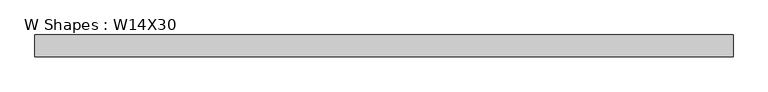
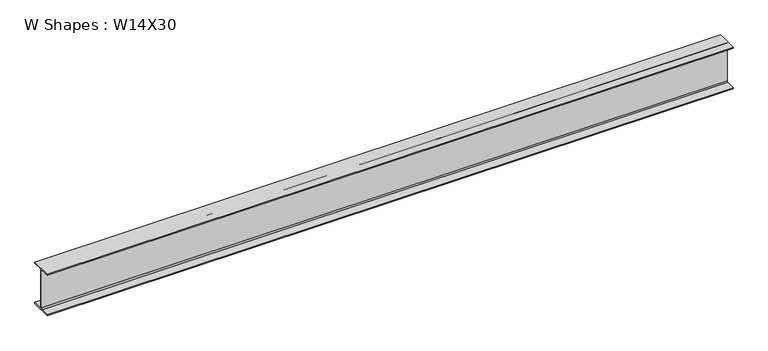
"""IFC4 building model written with IfcOpenShell, lengths in millimetres: beam geometry, W Shapes : W14X30."""

import ifcopenshell
import ifcopenshell.guid

model = None  # the IFC model being written
_history = None  # IfcOwnerHistory: only IFC2X3 demands one
_inside = {}  # id of a spatial element -> (the spatial element, [elements in it])
_under = {}  # id of a project, library or spatial element -> (it, [spatial elements below it])
_declared = {}  # id of a project -> (the project, [libraries it declares])
_typed = {}  # id of a type object -> (the type object, [elements of that type])
_made_of = {}  # id of a material, layer set ... -> (it, [elements and type objects made of it])


def new_model(schema):
    """Start an empty IFC model of exactly this schema.

    Asked for "IFC4X3", IfcOpenShell would pick the latest addendum, in which some entities
    have other attributes; the version numbers below select the first issue.
    IFC2X3 requires an IfcOwnerHistory on every rooted entity: one is made here for all.
    """
    global model, _history
    if schema == "IFC4X3":
        model = ifcopenshell.file(schema_version=(4, 3, 0, 0))
    else:
        model = ifcopenshell.file(schema=schema)
    _inside.clear()
    _under.clear()
    _declared.clear()
    _typed.clear()
    _made_of.clear()
    _history = None
    if model.schema == "IFC2X3":
        org = make("IfcOrganization", Name="unknown")
        user = make(
            "IfcPersonAndOrganization",
            ThePerson=make("IfcPerson", FamilyName="unknown"),
            TheOrganization=org,
        )
        app = make(
            "IfcApplication",
            ApplicationDeveloper=org,
            Version="unknown",
            ApplicationFullName="unknown",
            ApplicationIdentifier="unknown",
        )
        _history = make(
            "IfcOwnerHistory",
            OwningUser=user,
            OwningApplication=app,
            ChangeAction="ADDED",
            CreationDate=0,
        )
    return model


def make(cls, **values):
    """One entity of the class cls with the attributes given. An attribute that is None is left unset."""
    return model.create_entity(
        cls, **{name: value for name, value in values.items() if value is not None}
    )


def rooted(cls, **values):
    """An entity with a GlobalId (a new one), such as an element, a storey or a relation."""
    return make(cls, GlobalId=ifcopenshell.guid.new(), OwnerHistory=_history, **values)


def si_unit(unit_type, name, prefix=None):
    """IfcSIUnit, for example si_unit("LENGTHUNIT", "METRE", prefix="MILLI")."""
    return make("IfcSIUnit", UnitType=unit_type, Prefix=prefix, Name=name)


def assignment(units):
    """IfcUnitAssignment: the units of a project."""
    return None if units is None else make("IfcUnitAssignment", Units=units)


def point(xyz):
    """IfcCartesianPoint."""
    return None if xyz is None else make("IfcCartesianPoint", Coordinates=xyz)


def direction(xyz):
    """IfcDirection."""
    return None if xyz is None else make("IfcDirection", DirectionRatios=xyz)


def frame(location, z_axis=None, x_axis=None):
    """IfcAxis2Placement3D, a coordinate frame: its origin and axes. An axis left out is left unset."""
    return make(
        "IfcAxis2Placement3D",
        Location=point(location),
        Axis=direction(z_axis),
        RefDirection=direction(x_axis),
    )


def frame_2d(location, x_axis=None):
    """IfcAxis2Placement2D, a coordinate frame in the plane: its origin and x axis."""
    return make(
        "IfcAxis2Placement2D", Location=point(location), RefDirection=direction(x_axis)
    )


def origin():
    """The frame at (0, 0, 0) with its axes left unset."""
    return frame((0.0, 0.0, 0.0))


def place(relative_to, where):
    """IfcLocalPlacement: puts the frame where relative to a parent placement (None: the world)."""
    return make(
        "IfcLocalPlacement", PlacementRelTo=relative_to, RelativePlacement=where
    )


def context(
    kind, dimensions, precision=None, world=None, true_north=None, identifier=None
):
    """IfcGeometricRepresentationContext, for example the 3D "Model" context."""
    return make(
        "IfcGeometricRepresentationContext",
        ContextIdentifier=identifier,
        ContextType=kind,
        CoordinateSpaceDimension=dimensions,
        Precision=precision,
        WorldCoordinateSystem=world,
        TrueNorth=true_north,
    )


def project(units=None, contexts=None):
    """IfcProject with its units and contexts."""
    return rooted(
        "IfcProject",
        Name="project",
        RepresentationContexts=contexts,
        UnitsInContext=assignment(units),
    )


def spatial(cls, under=None, at=None, **own):
    """A site, building, storey or space (cls), placed at a placement, below another one or the project."""
    s = rooted(cls, ObjectPlacement=at, **own)
    if under is not None:
        _under.setdefault(under.id(), (under, []))[1].append(s)
    return s


def polyline(points):
    """IfcPolyline through the points."""
    return make("IfcPolyline", Points=[point(p) for p in points])


def circle_curve(where, radius):
    """IfcCircle in the frame where."""
    return make("IfcCircle", Position=where, Radius=radius)


def trimmed(basis, trim1, trim2, sense, master):
    """IfcTrimmedCurve: the piece of a basis curve between two trims."""
    return make(
        "IfcTrimmedCurve",
        BasisCurve=basis,
        Trim1=trim1,
        Trim2=trim2,
        SenseAgreement=sense,
        MasterRepresentation=master,
    )


def segment(curve, same_sense, transition):
    """IfcCompositeCurveSegment."""
    return make(
        "IfcCompositeCurveSegment",
        Transition=transition,
        SameSense=same_sense,
        ParentCurve=curve,
    )


def composite_curve(segments, self_intersect=None):
    """IfcCompositeCurve: segments joined end to end."""
    return make("IfcCompositeCurve", Segments=segments, SelfIntersect=self_intersect)


def outline(outer, holes=None, kind="AREA"):
    """IfcArbitraryClosedProfileDef: a profile drawn as a closed curve; with holes, ...WithVoids."""
    if holes is None:
        return make("IfcArbitraryClosedProfileDef", ProfileType=kind, OuterCurve=outer)
    return make(
        "IfcArbitraryProfileDefWithVoids",
        ProfileType=kind,
        OuterCurve=outer,
        InnerCurves=holes,
    )


def extrude(swept, where, along, depth):
    """IfcExtrudedAreaSolid: the profile swept, set in the frame where, extruded along a direction by depth."""
    return make(
        "IfcExtrudedAreaSolid",
        SweptArea=swept,
        Position=where,
        ExtrudedDirection=direction(along),
        Depth=depth,
    )


def shape(context_of_items, identifier, shape_type, items):
    """IfcShapeRepresentation: the items that make up one representation, for example the "Body"."""
    return make(
        "IfcShapeRepresentation",
        ContextOfItems=context_of_items,
        RepresentationIdentifier=identifier,
        RepresentationType=shape_type,
        Items=items,
    )


def source(mapping_origin, context_of_items, identifier, shape_type, items):
    """IfcRepresentationMap: a shape defined once, which mapped items show again and again."""
    return make(
        "IfcRepresentationMap",
        MappingOrigin=mapping_origin,
        MappedRepresentation=shape(context_of_items, identifier, shape_type, items),
    )


def transform(
    local_origin,
    x_axis=None,
    y_axis=None,
    z_axis=None,
    scale=None,
    scale2=None,
    scale3=None,
    uniform=True,
):
    """IfcCartesianTransformationOperator3D, or its non-uniform kind. x_axis, y_axis, z_axis: its Axis1, 2, 3."""
    if uniform:
        return make(
            "IfcCartesianTransformationOperator3D",
            Axis1=direction(x_axis),
            Axis2=direction(y_axis),
            LocalOrigin=point(local_origin),
            Scale=scale,
            Axis3=direction(z_axis),
        )
    return make(
        "IfcCartesianTransformationOperator3DnonUniform",
        Axis1=direction(x_axis),
        Axis2=direction(y_axis),
        LocalOrigin=point(local_origin),
        Scale=scale,
        Axis3=direction(z_axis),
        Scale2=scale2,
        Scale3=scale3,
    )


def mapped(mapping_source, mapping_target):
    """IfcMappedItem: shows the shape of a source again, moved by a transform."""
    return make(
        "IfcMappedItem", MappingSource=mapping_source, MappingTarget=mapping_target
    )


def made_of(thing, what):
    """Note that an element or type object is made of a material, layer set ...; save() writes the relation."""
    if what is not None:
        _made_of.setdefault(what.id(), (what, []))[1].append(thing)
    return thing


def element(
    cls,
    number,
    at=None,
    inside=None,
    cuts=None,
    type_object=None,
    material=None,
    context=None,
    identifier="Body",
    shape_type=None,
    held_by="IfcProductDefinitionShape",
    body=None,
    shapes=None,
    **own,
):
    """One element of the class cls, such as IfcWall. Its Tag is "e" and its number.

    at: its placement. inside: the storey or other place that contains it. cuts: it is an
    opening in that element (IfcRelVoidsElement). A single representation is given by context,
    identifier, shape_type and body (its items); several are given by shapes. held_by: the class
    of the entity that holds the representations. save() writes the other relations.
    """
    e = rooted(cls, Tag="e%d" % number, ObjectPlacement=at, **own)
    if body is not None:
        shapes = [shape(context, identifier, shape_type, body)]
    if shapes is not None:
        e.Representation = make(held_by, Representations=shapes)
    if inside is not None:
        _inside.setdefault(inside.id(), (inside, []))[1].append(e)
    if cuts is not None:
        rooted(
            "IfcRelVoidsElement", RelatingBuildingElement=cuts, RelatedOpeningElement=e
        )
    if type_object is not None:
        _typed.setdefault(type_object.id(), (type_object, []))[1].append(e)
    return made_of(e, material)


def aggregate(whole, parts):
    """IfcRelAggregates: a whole, such as a stair, and the parts it consists of."""
    return rooted("IfcRelAggregates", RelatingObject=whole, RelatedObjects=parts)


def save(model, path):
    """Write the relations noted so far, then the file.

    IfcRelAggregates (storeys below a building ...), IfcRelContainedInSpatialStructure (elements
    in a storey), IfcRelDefinesByType, IfcRelAssociatesMaterial and IfcRelDeclares: one each for
    every whole, place, type object, material and project.
    """
    for whole, parts in _under.values():
        aggregate(whole, parts)
    for where, things in _inside.values():
        rooted(
            "IfcRelContainedInSpatialStructure",
            RelatedElements=things,
            RelatingStructure=where,
        )
    for kind, things in _typed.values():
        rooted("IfcRelDefinesByType", RelatedObjects=things, RelatingType=kind)
    for what, things in _made_of.values():
        rooted("IfcRelAssociatesMaterial", RelatedObjects=things, RelatingMaterial=what)
    for by, libraries in _declared.values():
        rooted("IfcRelDeclares", RelatingContext=by, RelatedDefinitions=libraries)
    model.write(path)


def w_shapes_w14x30_0dffa004(model_context):
    return source(origin(), model_context, "Body", "SweptSolid", [
        extrude(outline(composite_curve([segment(polyline([(85.471, -165.481), (85.471, -175.26), (-85.471, -175.26), (-85.471, -165.481), (-13.589, -165.481)]), True, "CONTINUOUS"), segment(trimmed(circle_curve(frame_2d((-13.589, -155.321)), 10.16), [point((-13.589, -165.481))], [point((-3.429, -155.321))], True, "CARTESIAN"), True, "CONTINUOUS"), segment(polyline([(-3.429, -155.321), (-3.429, 155.321)]), True, "CONTINUOUS"), segment(trimmed(circle_curve(frame_2d((-13.589, 155.321)), 10.16), [point((-3.429, 155.321))], [point((-13.589, 165.481))], True, "CARTESIAN"), True, "CONTINUOUS"), segment(polyline([(-13.589, 165.481), (-85.471, 165.481), (-85.471, 175.26), (85.471, 175.26), (85.471, 165.481), (13.589, 165.481)]), True, "CONTINUOUS"), segment(trimmed(circle_curve(frame_2d((13.589, 155.321)), 10.16), [point((13.589, 165.481))], [point((3.429, 155.321))], True, "CARTESIAN"), True, "CONTINUOUS"), segment(polyline([(3.429, 155.321), (3.429, -155.321)]), True, "CONTINUOUS"), segment(trimmed(circle_curve(frame_2d((13.589, -155.321)), 10.16), [point((3.429, -155.321))], [point((13.589, -165.481))], True, "CARTESIAN"), True, "CONTINUOUS"), segment(polyline([(13.589, -165.481), (85.471, -165.481)]), True, "CONTINUOUS")], self_intersect=False)), frame((-2732.0875, 0.0, 0.0), z_axis=(1.0, 0.0, 0.0), x_axis=(0.0, 1.0, 0.0)), (0.0, 0.0, 1.0), 5464.175),
    ])


if __name__ == "__main__":
    model = new_model("IFC4")
    model_context = context("Model", 3, world=origin())
    ifc_project = project(units=[si_unit("LENGTHUNIT", "METRE", prefix="MILLI")], contexts=[model_context])
    site = spatial("IfcSite", under=ifc_project)
    building = spatial("IfcBuilding", under=site)
    placement = place(None, origin())
    w_shapes_w14x30_shape = w_shapes_w14x30_0dffa004(model_context)
    element("IfcBeam", 1, ObjectType="W Shapes : W14X30", at=placement, inside=building, context=model_context, shape_type="MappedRepresentation", body=[
        mapped(w_shapes_w14x30_shape, transform((0.0, 0.0, 0.0), x_axis=(1.0, 0.0, 0.0), y_axis=(0.0, 1.0, 0.0), z_axis=(0.0, 0.0, 1.0))),
    ])
    save(model, "model.ifc")
